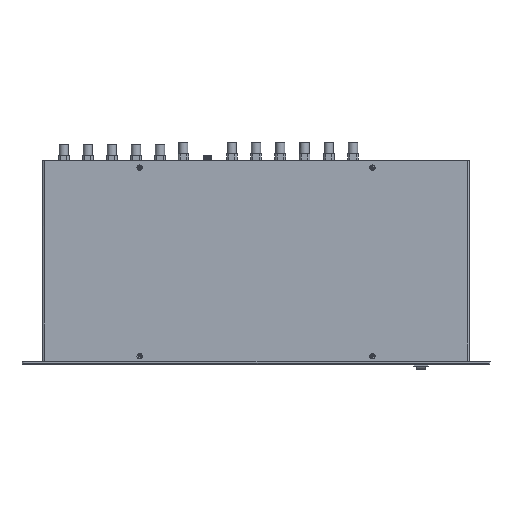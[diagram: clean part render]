
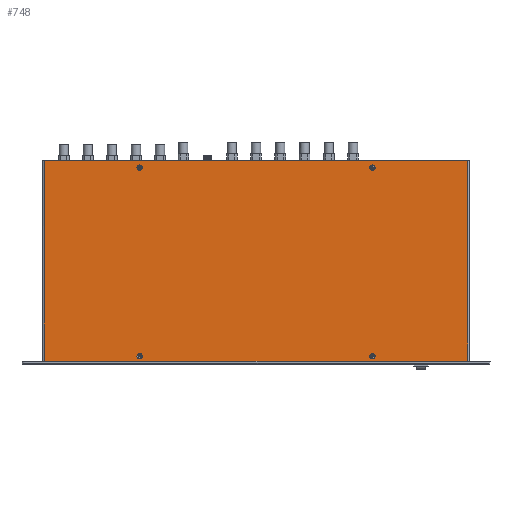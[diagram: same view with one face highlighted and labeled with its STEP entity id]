
A CAD part, top view. The second image highlights one B-rep face of the part: STEP entity #748.
In plain terms, the highlighted free-form (B-spline) face has degree [1, 1] with [2, 2] control points.
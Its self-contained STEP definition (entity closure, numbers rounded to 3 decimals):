
#391=FACE_BOUND('',#5736,.T.);
#392=FACE_BOUND('',#5737,.T.);
#393=FACE_BOUND('',#5738,.T.);
#394=FACE_BOUND('',#5739,.T.);
#748=ADVANCED_FACE('',(#3210,#391,#392,#393,#394),#37903,.T.);
#3210=FACE_OUTER_BOUND('',#5735,.T.);
#5735=EDGE_LOOP('',(#9343,#9344,#9345,#9346));
#5736=EDGE_LOOP('',(#9347,#9348));
#5737=EDGE_LOOP('',(#9349,#9350));
#5738=EDGE_LOOP('',(#9351,#9352));
#5739=EDGE_LOOP('',(#9353,#9354));
#9343=ORIENTED_EDGE('',*,*,#20862,.F.);
#9344=ORIENTED_EDGE('',*,*,#20863,.T.);
#9345=ORIENTED_EDGE('',*,*,#20861,.F.);
#9346=ORIENTED_EDGE('',*,*,#20864,.T.);
#9347=ORIENTED_EDGE('',*,*,#20823,.T.);
#9348=ORIENTED_EDGE('',*,*,#20854,.T.);
#9349=ORIENTED_EDGE('',*,*,#20856,.T.);
#9350=ORIENTED_EDGE('',*,*,#20827,.T.);
#9351=ORIENTED_EDGE('',*,*,#20858,.T.);
#9352=ORIENTED_EDGE('',*,*,#20831,.T.);
#9353=ORIENTED_EDGE('',*,*,#20860,.T.);
#9354=ORIENTED_EDGE('',*,*,#20835,.T.);
#20823=EDGE_CURVE('',#32870,#32869,#26544,.T.);
#20827=EDGE_CURVE('',#32874,#32873,#26546,.T.);
#20831=EDGE_CURVE('',#32878,#32877,#26548,.T.);
#20835=EDGE_CURVE('',#32882,#32881,#26550,.T.);
#20854=EDGE_CURVE('',#32869,#32870,#26560,.T.);
#20856=EDGE_CURVE('',#32873,#32874,#26562,.T.);
#20858=EDGE_CURVE('',#32877,#32878,#26564,.T.);
#20860=EDGE_CURVE('',#32881,#32882,#26566,.T.);
#20861=EDGE_CURVE('',#32899,#32900,#28181,.T.);
#20862=EDGE_CURVE('',#32901,#32902,#28182,.T.);
#20863=EDGE_CURVE('',#32901,#32900,#28183,.T.);
#20864=EDGE_CURVE('',#32899,#32902,#28184,.T.);
#26544=(
BOUNDED_CURVE()
B_SPLINE_CURVE(2,(#45459,#45460,#45461,#45462,#45463),.UNSPECIFIED.,.F.,
 .F.)
B_SPLINE_CURVE_WITH_KNOTS((3,2,3),(-8.639,-4.32,
0.),.UNSPECIFIED.)
CURVE()
GEOMETRIC_REPRESENTATION_ITEM()
RATIONAL_B_SPLINE_CURVE((1.,0.707,1.,0.707,1.))
REPRESENTATION_ITEM('')
);
#26546=(
BOUNDED_CURVE()
B_SPLINE_CURVE(2,(#45473,#45474,#45475,#45476,#45477),.UNSPECIFIED.,.F.,
 .F.)
B_SPLINE_CURVE_WITH_KNOTS((3,2,3),(-8.639,-4.32,
0.),.UNSPECIFIED.)
CURVE()
GEOMETRIC_REPRESENTATION_ITEM()
RATIONAL_B_SPLINE_CURVE((1.,0.707,1.,0.707,1.))
REPRESENTATION_ITEM('')
);
#26548=(
BOUNDED_CURVE()
B_SPLINE_CURVE(2,(#45487,#45488,#45489,#45490,#45491),.UNSPECIFIED.,.F.,
 .F.)
B_SPLINE_CURVE_WITH_KNOTS((3,2,3),(-8.639,-4.32,
0.),.UNSPECIFIED.)
CURVE()
GEOMETRIC_REPRESENTATION_ITEM()
RATIONAL_B_SPLINE_CURVE((1.,0.707,1.,0.707,1.))
REPRESENTATION_ITEM('')
);
#26550=(
BOUNDED_CURVE()
B_SPLINE_CURVE(2,(#45501,#45502,#45503,#45504,#45505),.UNSPECIFIED.,.F.,
 .F.)
B_SPLINE_CURVE_WITH_KNOTS((3,2,3),(-8.639,-4.32,
0.),.UNSPECIFIED.)
CURVE()
GEOMETRIC_REPRESENTATION_ITEM()
RATIONAL_B_SPLINE_CURVE((1.,0.707,1.,0.707,1.))
REPRESENTATION_ITEM('')
);
#26560=(
BOUNDED_CURVE()
B_SPLINE_CURVE(2,(#45569,#45570,#45571,#45572,#45573),.UNSPECIFIED.,.F.,
 .F.)
B_SPLINE_CURVE_WITH_KNOTS((3,2,3),(-8.639,-4.32,
0.),.UNSPECIFIED.)
CURVE()
GEOMETRIC_REPRESENTATION_ITEM()
RATIONAL_B_SPLINE_CURVE((1.,0.707,1.,0.707,1.))
REPRESENTATION_ITEM('')
);
#26562=(
BOUNDED_CURVE()
B_SPLINE_CURVE(2,(#45579,#45580,#45581,#45582,#45583),.UNSPECIFIED.,.F.,
 .F.)
B_SPLINE_CURVE_WITH_KNOTS((3,2,3),(-8.639,-4.32,
0.),.UNSPECIFIED.)
CURVE()
GEOMETRIC_REPRESENTATION_ITEM()
RATIONAL_B_SPLINE_CURVE((1.,0.707,1.,0.707,1.))
REPRESENTATION_ITEM('')
);
#26564=(
BOUNDED_CURVE()
B_SPLINE_CURVE(2,(#45589,#45590,#45591,#45592,#45593),.UNSPECIFIED.,.F.,
 .F.)
B_SPLINE_CURVE_WITH_KNOTS((3,2,3),(-8.639,-4.32,
0.),.UNSPECIFIED.)
CURVE()
GEOMETRIC_REPRESENTATION_ITEM()
RATIONAL_B_SPLINE_CURVE((1.,0.707,1.,0.707,1.))
REPRESENTATION_ITEM('')
);
#26566=(
BOUNDED_CURVE()
B_SPLINE_CURVE(2,(#45599,#45600,#45601,#45602,#45603),.UNSPECIFIED.,.F.,
 .F.)
B_SPLINE_CURVE_WITH_KNOTS((3,2,3),(-8.639,-4.32,
0.),.UNSPECIFIED.)
CURVE()
GEOMETRIC_REPRESENTATION_ITEM()
RATIONAL_B_SPLINE_CURVE((1.,0.707,1.,0.707,1.))
REPRESENTATION_ITEM('')
);
#28181=B_SPLINE_CURVE_WITH_KNOTS('',1,(#45604,#45605),.UNSPECIFIED.,.F.,
 .F.,(2,2),(0.,437.),.UNSPECIFIED.);
#28182=B_SPLINE_CURVE_WITH_KNOTS('',1,(#45606,#45607),.UNSPECIFIED.,.F.,
 .F.,(2,2),(0.,437.),.UNSPECIFIED.);
#28183=B_SPLINE_CURVE_WITH_KNOTS('',1,(#45608,#45609),.UNSPECIFIED.,.F.,
 .F.,(2,2),(0.,206.),.UNSPECIFIED.);
#28184=B_SPLINE_CURVE_WITH_KNOTS('',1,(#45610,#45611),.UNSPECIFIED.,.F.,
 .F.,(2,2),(0.,206.),.UNSPECIFIED.);
#32869=VERTEX_POINT('',#45408);
#32870=VERTEX_POINT('',#45409);
#32873=VERTEX_POINT('',#45412);
#32874=VERTEX_POINT('',#45413);
#32877=VERTEX_POINT('',#45416);
#32878=VERTEX_POINT('',#45417);
#32881=VERTEX_POINT('',#45420);
#32882=VERTEX_POINT('',#45421);
#32899=VERTEX_POINT('',#45438);
#32900=VERTEX_POINT('',#45439);
#32901=VERTEX_POINT('',#45440);
#32902=VERTEX_POINT('',#45441);
#37903=B_SPLINE_SURFACE_WITH_KNOTS('',1,1,((#45282,#45283),(#45284,#45285)),
 .UNSPECIFIED.,.F.,.F.,.F.,(2,2),(2,2),(-226.8,20.4),(-262.2,
262.2),.UNSPECIFIED.);
#45282=CARTESIAN_POINT('',(-261.175,130.765,37.42));
#45283=CARTESIAN_POINT('',(264.74,130.862,37.41));
#45284=CARTESIAN_POINT('',(-261.221,-118.397,37.554));
#45285=CARTESIAN_POINT('',(264.694,-118.3,37.544));
#45408=CARTESIAN_POINT('',(-118.569,105.24,37.431));
#45409=CARTESIAN_POINT('',(-118.57,99.696,37.434));
#45412=CARTESIAN_POINT('',(122.124,105.284,37.427));
#45413=CARTESIAN_POINT('',(122.123,99.741,37.43));
#45416=CARTESIAN_POINT('',(122.088,-89.751,37.531));
#45417=CARTESIAN_POINT('',(122.087,-95.295,37.534));
#45420=CARTESIAN_POINT('',(-118.605,-89.796,37.536));
#45421=CARTESIAN_POINT('',(-118.606,-95.34,37.539));
#45438=CARTESIAN_POINT('',(220.871,-97.545,37.533));
#45439=CARTESIAN_POINT('',(-217.391,-97.626,37.542));
#45440=CARTESIAN_POINT('',(-217.353,110.009,37.431));
#45441=CARTESIAN_POINT('',(220.91,110.09,37.422));
#45459=CARTESIAN_POINT('',(-118.57,99.696,37.434));
#45460=CARTESIAN_POINT('',(-121.328,99.696,37.434));
#45461=CARTESIAN_POINT('',(-121.327,102.468,37.433));
#45462=CARTESIAN_POINT('',(-121.327,105.239,37.431));
#45463=CARTESIAN_POINT('',(-118.569,105.24,37.431));
#45473=CARTESIAN_POINT('',(122.123,99.741,37.43));
#45474=CARTESIAN_POINT('',(119.365,99.74,37.43));
#45475=CARTESIAN_POINT('',(119.366,102.512,37.428));
#45476=CARTESIAN_POINT('',(119.366,105.284,37.427));
#45477=CARTESIAN_POINT('',(122.124,105.284,37.427));
#45487=CARTESIAN_POINT('',(122.087,-95.295,37.534));
#45488=CARTESIAN_POINT('',(119.329,-95.296,37.534));
#45489=CARTESIAN_POINT('',(119.33,-92.524,37.533));
#45490=CARTESIAN_POINT('',(119.33,-89.752,37.531));
#45491=CARTESIAN_POINT('',(122.088,-89.751,37.531));
#45501=CARTESIAN_POINT('',(-118.606,-95.34,37.539));
#45502=CARTESIAN_POINT('',(-121.364,-95.34,37.539));
#45503=CARTESIAN_POINT('',(-121.363,-92.568,37.537));
#45504=CARTESIAN_POINT('',(-121.363,-89.796,37.536));
#45505=CARTESIAN_POINT('',(-118.605,-89.796,37.536));
#45569=CARTESIAN_POINT('',(-118.569,105.24,37.431));
#45570=CARTESIAN_POINT('',(-115.811,105.24,37.431));
#45571=CARTESIAN_POINT('',(-115.812,102.469,37.433));
#45572=CARTESIAN_POINT('',(-115.812,99.697,37.434));
#45573=CARTESIAN_POINT('',(-118.57,99.696,37.434));
#45579=CARTESIAN_POINT('',(122.124,105.284,37.427));
#45580=CARTESIAN_POINT('',(124.882,105.285,37.427));
#45581=CARTESIAN_POINT('',(124.882,102.513,37.428));
#45582=CARTESIAN_POINT('',(124.881,99.741,37.429));
#45583=CARTESIAN_POINT('',(122.123,99.741,37.43));
#45589=CARTESIAN_POINT('',(122.088,-89.751,37.531));
#45590=CARTESIAN_POINT('',(124.846,-89.751,37.531));
#45591=CARTESIAN_POINT('',(124.846,-92.523,37.533));
#45592=CARTESIAN_POINT('',(124.845,-95.295,37.534));
#45593=CARTESIAN_POINT('',(122.087,-95.295,37.534));
#45599=CARTESIAN_POINT('',(-118.605,-89.796,37.536));
#45600=CARTESIAN_POINT('',(-115.847,-89.795,37.536));
#45601=CARTESIAN_POINT('',(-115.847,-92.567,37.537));
#45602=CARTESIAN_POINT('',(-115.848,-95.339,37.539));
#45603=CARTESIAN_POINT('',(-118.606,-95.34,37.539));
#45604=CARTESIAN_POINT('',(220.871,-97.545,37.533));
#45605=CARTESIAN_POINT('',(-217.391,-97.626,37.542));
#45606=CARTESIAN_POINT('',(-217.353,110.009,37.431));
#45607=CARTESIAN_POINT('',(220.91,110.09,37.422));
#45608=CARTESIAN_POINT('',(-217.353,110.009,37.431));
#45609=CARTESIAN_POINT('',(-217.391,-97.626,37.542));
#45610=CARTESIAN_POINT('',(220.871,-97.545,37.533));
#45611=CARTESIAN_POINT('',(220.91,110.09,37.422));
